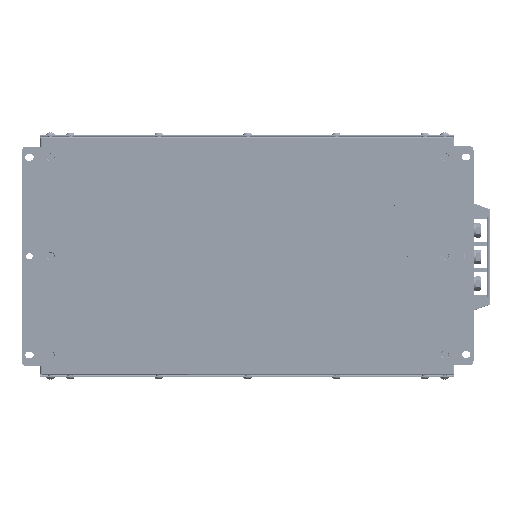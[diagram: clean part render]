
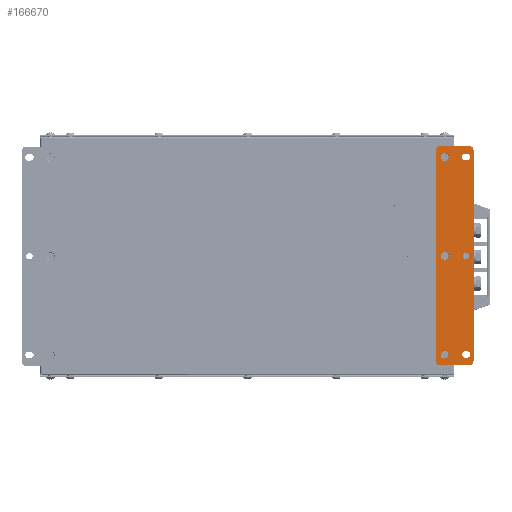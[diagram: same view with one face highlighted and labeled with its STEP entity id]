
A CAD part, front view. The second image highlights one B-rep face of the part: STEP entity #166670.
In plain terms, the highlighted planar face has unit normal (0, -1, 0).
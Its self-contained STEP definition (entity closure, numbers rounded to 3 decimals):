
#5721=FACE_BOUND('',#23243,.T.);
#5722=FACE_BOUND('',#23244,.T.);
#5723=FACE_BOUND('',#23245,.T.);
#5724=FACE_BOUND('',#23246,.T.);
#5725=FACE_BOUND('',#23247,.T.);
#5726=FACE_BOUND('',#23248,.T.);
#7509=CIRCLE('',#176477,4.);
#7510=CIRCLE('',#176479,4.);
#7511=CIRCLE('',#176481,4.);
#7523=CIRCLE('',#176497,3.3);
#7524=CIRCLE('',#176500,3.3);
#7525=CIRCLE('',#176504,3.3);
#7526=CIRCLE('',#176507,3.3);
#7527=CIRCLE('',#176509,3.3);
#7528=CIRCLE('',#176511,4.);
#7529=CIRCLE('',#176514,4.);
#7530=CIRCLE('',#176517,4.);
#7531=CIRCLE('',#176520,4.);
#14128=FACE_OUTER_BOUND('',#23242,.T.);
#23242=EDGE_LOOP('',(#106979,#106980,#106981,#106982,#106983,#106984,#106985,
#106986));
#23243=EDGE_LOOP('',(#106987));
#23244=EDGE_LOOP('',(#106988));
#23245=EDGE_LOOP('',(#106989));
#23246=EDGE_LOOP('',(#106990));
#23247=EDGE_LOOP('',(#106991,#106992,#106993,#106994));
#23248=EDGE_LOOP('',(#106995,#106996,#106997,#106998));
#33840=LINE('',#234249,#49346);
#33843=LINE('',#234257,#49349);
#33847=LINE('',#234267,#49353);
#33850=LINE('',#234275,#49356);
#33855=LINE('',#234291,#49361);
#33858=LINE('',#234299,#49364);
#33861=LINE('',#234307,#49367);
#33864=LINE('',#234314,#49370);
#49346=VECTOR('',#192113,10.);
#49349=VECTOR('',#192122,10.);
#49353=VECTOR('',#192134,10.);
#49356=VECTOR('',#192143,10.);
#49361=VECTOR('',#192162,10.);
#49364=VECTOR('',#192171,10.);
#49367=VECTOR('',#192180,10.);
#49370=VECTOR('',#192189,10.);
#65081=VERTEX_POINT('',#234214);
#65082=VERTEX_POINT('',#234218);
#65083=VERTEX_POINT('',#234222);
#65089=VERTEX_POINT('',#234246);
#65090=VERTEX_POINT('',#234248);
#65091=VERTEX_POINT('',#234252);
#65092=VERTEX_POINT('',#234256);
#65093=VERTEX_POINT('',#234264);
#65094=VERTEX_POINT('',#234266);
#65095=VERTEX_POINT('',#234270);
#65096=VERTEX_POINT('',#234274);
#65097=VERTEX_POINT('',#234280);
#65098=VERTEX_POINT('',#234284);
#65099=VERTEX_POINT('',#234286);
#65100=VERTEX_POINT('',#234290);
#65101=VERTEX_POINT('',#234294);
#65102=VERTEX_POINT('',#234298);
#65103=VERTEX_POINT('',#234302);
#65104=VERTEX_POINT('',#234306);
#65105=VERTEX_POINT('',#234310);
#81258=EDGE_CURVE('',#65081,#65081,#7509,.T.);
#81260=EDGE_CURVE('',#65082,#65082,#7510,.T.);
#81262=EDGE_CURVE('',#65083,#65083,#7511,.T.);
#81278=EDGE_CURVE('',#65090,#65089,#33840,.T.);
#81280=EDGE_CURVE('',#65091,#65090,#7523,.T.);
#81282=EDGE_CURVE('',#65092,#65091,#33843,.T.);
#81284=EDGE_CURVE('',#65089,#65092,#7524,.T.);
#81287=EDGE_CURVE('',#65094,#65093,#33847,.T.);
#81289=EDGE_CURVE('',#65095,#65094,#7525,.T.);
#81291=EDGE_CURVE('',#65096,#65095,#33850,.T.);
#81293=EDGE_CURVE('',#65093,#65096,#7526,.T.);
#81294=EDGE_CURVE('',#65097,#65097,#7527,.T.);
#81297=EDGE_CURVE('',#65099,#65098,#7528,.T.);
#81299=EDGE_CURVE('',#65100,#65099,#33855,.T.);
#81301=EDGE_CURVE('',#65101,#65100,#7529,.T.);
#81303=EDGE_CURVE('',#65102,#65101,#33858,.T.);
#81305=EDGE_CURVE('',#65103,#65102,#7530,.T.);
#81307=EDGE_CURVE('',#65104,#65103,#33861,.T.);
#81309=EDGE_CURVE('',#65105,#65104,#7531,.T.);
#81311=EDGE_CURVE('',#65098,#65105,#33864,.T.);
#106979=ORIENTED_EDGE('',*,*,#81311,.T.);
#106980=ORIENTED_EDGE('',*,*,#81309,.T.);
#106981=ORIENTED_EDGE('',*,*,#81307,.T.);
#106982=ORIENTED_EDGE('',*,*,#81305,.T.);
#106983=ORIENTED_EDGE('',*,*,#81303,.T.);
#106984=ORIENTED_EDGE('',*,*,#81301,.T.);
#106985=ORIENTED_EDGE('',*,*,#81299,.T.);
#106986=ORIENTED_EDGE('',*,*,#81297,.T.);
#106987=ORIENTED_EDGE('',*,*,#81258,.T.);
#106988=ORIENTED_EDGE('',*,*,#81260,.T.);
#106989=ORIENTED_EDGE('',*,*,#81262,.T.);
#106990=ORIENTED_EDGE('',*,*,#81294,.T.);
#106991=ORIENTED_EDGE('',*,*,#81293,.T.);
#106992=ORIENTED_EDGE('',*,*,#81291,.T.);
#106993=ORIENTED_EDGE('',*,*,#81289,.T.);
#106994=ORIENTED_EDGE('',*,*,#81287,.T.);
#106995=ORIENTED_EDGE('',*,*,#81284,.T.);
#106996=ORIENTED_EDGE('',*,*,#81282,.T.);
#106997=ORIENTED_EDGE('',*,*,#81280,.T.);
#106998=ORIENTED_EDGE('',*,*,#81278,.T.);
#151993=PLANE('',#176522);
#166670=ADVANCED_FACE('',(#14128,#5721,#5722,#5723,#5724,#5725,#5726),#151993,
 .T.);
#176477=AXIS2_PLACEMENT_3D('',#234215,#192069,#192070);
#176479=AXIS2_PLACEMENT_3D('',#234219,#192074,#192075);
#176481=AXIS2_PLACEMENT_3D('',#234223,#192079,#192080);
#176497=AXIS2_PLACEMENT_3D('',#234253,#192117,#192118);
#176500=AXIS2_PLACEMENT_3D('',#234260,#192126,#192127);
#176504=AXIS2_PLACEMENT_3D('',#234271,#192138,#192139);
#176507=AXIS2_PLACEMENT_3D('',#234278,#192147,#192148);
#176509=AXIS2_PLACEMENT_3D('',#234281,#192151,#192152);
#176511=AXIS2_PLACEMENT_3D('',#234287,#192157,#192158);
#176514=AXIS2_PLACEMENT_3D('',#234295,#192166,#192167);
#176517=AXIS2_PLACEMENT_3D('',#234303,#192175,#192176);
#176520=AXIS2_PLACEMENT_3D('',#234311,#192184,#192185);
#176522=AXIS2_PLACEMENT_3D('',#234315,#192190,#192191);
#192069=DIRECTION('center_axis',(0.,1.,0.));
#192070=DIRECTION('ref_axis',(0.,0.,
1.));
#192074=DIRECTION('center_axis',(0.,1.,0.));
#192075=DIRECTION('ref_axis',(0.,0.,
1.));
#192079=DIRECTION('center_axis',(0.,1.,0.));
#192080=DIRECTION('ref_axis',(0.,0.,
1.));
#192113=DIRECTION('',(-1.,0.,0.));
#192117=DIRECTION('center_axis',(0.,1.,0.));
#192118=DIRECTION('ref_axis',(0.,0.,
1.));
#192122=DIRECTION('',(1.,0.,0.));
#192126=DIRECTION('center_axis',(0.,1.,0.));
#192127=DIRECTION('ref_axis',(0.,0.,
-1.));
#192134=DIRECTION('',(-1.,0.,0.));
#192138=DIRECTION('center_axis',(0.,1.,0.));
#192139=DIRECTION('ref_axis',(0.,0.,
1.));
#192143=DIRECTION('',(1.,0.,0.));
#192147=DIRECTION('center_axis',(0.,1.,0.));
#192148=DIRECTION('ref_axis',(0.,0.,
-1.));
#192151=DIRECTION('center_axis',(0.,1.,0.));
#192152=DIRECTION('ref_axis',(0.,0.,
1.));
#192157=DIRECTION('center_axis',(0.,-1.,0.));
#192158=DIRECTION('ref_axis',(0.,0.,
-1.));
#192162=DIRECTION('',(1.,0.,0.));
#192166=DIRECTION('center_axis',(0.,-1.,0.));
#192167=DIRECTION('ref_axis',(-1.,0.,0.));
#192171=DIRECTION('',(0.,0.,-1.));
#192175=DIRECTION('center_axis',(0.,-1.,0.));
#192176=DIRECTION('ref_axis',(0.,0.,
1.));
#192180=DIRECTION('',(-1.,0.,0.));
#192184=DIRECTION('center_axis',(0.,-1.,0.));
#192185=DIRECTION('ref_axis',(1.,0.,0.));
#192189=DIRECTION('',(0.,0.,1.));
#192190=DIRECTION('center_axis',(0.,-1.,0.));
#192191=DIRECTION('ref_axis',(1.,0.,0.));
#234214=CARTESIAN_POINT('',(110.274,-70.851,96.273));
#234215=CARTESIAN_POINT('Origin',(110.274,-70.851,100.273));
#234218=CARTESIAN_POINT('',(110.274,-70.851,-3.727));
#234219=CARTESIAN_POINT('Origin',(110.274,-70.851,0.273));
#234222=CARTESIAN_POINT('',(110.274,-70.851,-103.727));
#234223=CARTESIAN_POINT('Origin',(110.274,-70.851,-99.727));
#234246=CARTESIAN_POINT('',(130.774,-70.851,-103.027));
#234248=CARTESIAN_POINT('',(132.774,-70.851,-103.027));
#234249=CARTESIAN_POINT('',(132.774,-70.851,-103.027));
#234252=CARTESIAN_POINT('',(132.774,-70.851,-96.427));
#234253=CARTESIAN_POINT('Origin',(132.774,-70.851,-99.727));
#234256=CARTESIAN_POINT('',(130.774,-70.851,-96.427));
#234257=CARTESIAN_POINT('',(130.774,-70.851,-96.427));
#234260=CARTESIAN_POINT('Origin',(130.774,-70.851,-99.727));
#234264=CARTESIAN_POINT('',(130.774,-70.851,96.973));
#234266=CARTESIAN_POINT('',(132.774,-70.851,96.973));
#234267=CARTESIAN_POINT('',(132.774,-70.851,96.973));
#234270=CARTESIAN_POINT('',(132.774,-70.851,103.573));
#234271=CARTESIAN_POINT('Origin',(132.774,-70.851,100.273));
#234274=CARTESIAN_POINT('',(130.774,-70.851,103.573));
#234275=CARTESIAN_POINT('',(130.774,-70.851,103.573));
#234278=CARTESIAN_POINT('Origin',(130.774,-70.851,100.273));
#234280=CARTESIAN_POINT('',(131.774,-70.851,-3.027));
#234281=CARTESIAN_POINT('Origin',(131.774,-70.851,0.273));
#234284=CARTESIAN_POINT('',(139.274,-70.851,-106.727));
#234286=CARTESIAN_POINT('',(135.274,-70.851,-110.727));
#234287=CARTESIAN_POINT('Origin',(135.274,-70.851,-106.727));
#234290=CARTESIAN_POINT('',(105.274,-70.851,-110.727));
#234291=CARTESIAN_POINT('',(105.274,-70.851,-110.727));
#234294=CARTESIAN_POINT('',(101.274,-70.851,-106.727));
#234295=CARTESIAN_POINT('Origin',(105.274,-70.851,-106.727));
#234298=CARTESIAN_POINT('',(101.274,-70.851,107.273));
#234299=CARTESIAN_POINT('',(101.274,-70.851,107.273));
#234302=CARTESIAN_POINT('',(105.274,-70.851,111.273));
#234303=CARTESIAN_POINT('Origin',(105.274,-70.851,107.273));
#234306=CARTESIAN_POINT('',(135.274,-70.851,111.273));
#234307=CARTESIAN_POINT('',(135.274,-70.851,111.273));
#234310=CARTESIAN_POINT('',(139.274,-70.851,107.273));
#234311=CARTESIAN_POINT('Origin',(135.274,-70.851,107.273));
#234314=CARTESIAN_POINT('',(139.274,-70.851,-106.727));
#234315=CARTESIAN_POINT('Origin',(120.274,-70.851,0.273));
